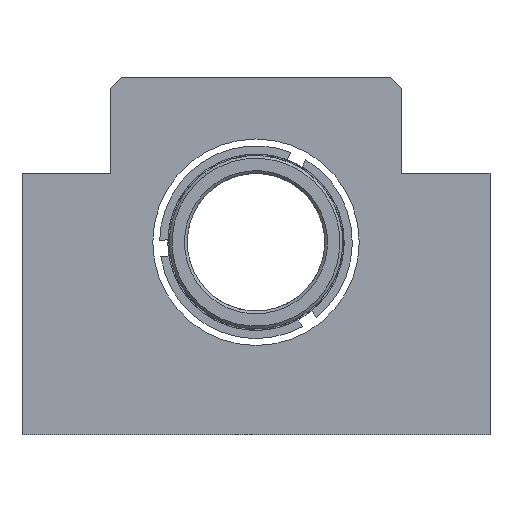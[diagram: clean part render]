
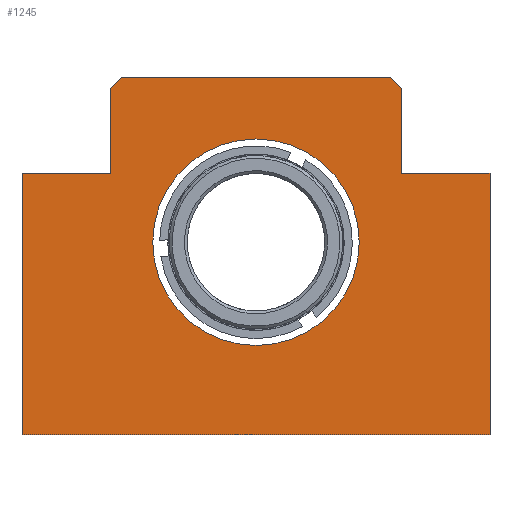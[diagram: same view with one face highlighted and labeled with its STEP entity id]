
A CAD part, left-side view. The second image highlights one B-rep face of the part: STEP entity #1245.
In plain terms, the highlighted planar face has unit normal (-1, 0, 0).
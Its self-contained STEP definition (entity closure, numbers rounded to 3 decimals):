
#3 = EDGE_CURVE ( 'NONE', #3592, #191, #2914, .T. ) ;
#60 = DIRECTION ( 'NONE',  ( 0., 0., -1. ) ) ;
#105 = VERTEX_POINT ( 'NONE', #154 ) ;
#113 = CARTESIAN_POINT ( 'NONE',  ( -35., -49., 60. ) ) ;
#154 = CARTESIAN_POINT ( 'NONE',  ( -35., 53., 56. ) ) ;
#191 = VERTEX_POINT ( 'NONE', #1951 ) ;
#230 = CARTESIAN_POINT ( 'NONE',  ( -35., -53., 25. ) ) ;
#280 = CARTESIAN_POINT ( 'NONE',  ( -35., -53., 56. ) ) ;
#289 = VECTOR ( 'NONE', #2657, 1000. ) ;
#298 = LINE ( 'NONE', #2276, #1934 ) ;
#375 = CARTESIAN_POINT ( 'NONE',  ( -35., 0., 0. ) ) ;
#474 = CARTESIAN_POINT ( 'NONE',  ( -35., -85., 25. ) ) ;
#510 = AXIS2_PLACEMENT_3D ( 'NONE', #3519, #1499, #3899 ) ;
#524 = DIRECTION ( 'NONE',  ( 0., 0., 1. ) ) ;
#731 = CIRCLE ( 'NONE', #2709, 37.5 ) ;
#733 = DIRECTION ( 'NONE',  ( 0., 1., 0. ) ) ;
#755 = VERTEX_POINT ( 'NONE', #4195 ) ;
#771 = CARTESIAN_POINT ( 'NONE',  ( -35., 53., 60. ) ) ;
#781 = VERTEX_POINT ( 'NONE', #1811 ) ;
#801 = PLANE ( 'NONE',  #510 ) ;
#817 = EDGE_CURVE ( 'NONE', #3592, #105, #4056, .T. ) ;
#818 = VECTOR ( 'NONE', #60, 1000. ) ;
#904 = CARTESIAN_POINT ( 'NONE',  ( -35., -85., -70. ) ) ;
#944 = CARTESIAN_POINT ( 'NONE',  ( -35., 85., -70. ) ) ;
#946 = VERTEX_POINT ( 'NONE', #3813 ) ;
#1025 = DIRECTION ( 'NONE',  ( 0., 0.707, -0.707 ) ) ;
#1039 = LINE ( 'NONE', #2145, #2660 ) ;
#1087 = EDGE_CURVE ( 'NONE', #3459, #946, #4101, .T. ) ;
#1123 = EDGE_LOOP ( 'NONE', ( #1386, #1533 ) ) ;
#1209 = VERTEX_POINT ( 'NONE', #3882 ) ;
#1245 = ADVANCED_FACE ( 'NONE', ( #1641, #3351 ), #801, .F. ) ;
#1252 = VECTOR ( 'NONE', #4261, 1000. ) ;
#1280 = DIRECTION ( 'NONE',  ( 1., 0., 0. ) ) ;
#1386 = ORIENTED_EDGE ( 'NONE', *, *, #2811, .T. ) ;
#1499 = DIRECTION ( 'NONE',  ( 1., 0., 0. ) ) ;
#1533 = ORIENTED_EDGE ( 'NONE', *, *, #1972, .T. ) ;
#1542 = ORIENTED_EDGE ( 'NONE', *, *, #3, .F. ) ;
#1607 = EDGE_CURVE ( 'NONE', #1813, #191, #2281, .T. ) ;
#1637 = EDGE_CURVE ( 'NONE', #2435, #2681, #2065, .T. ) ;
#1641 = FACE_OUTER_BOUND ( 'NONE', #4317, .T. ) ;
#1743 = LINE ( 'NONE', #3843, #818 ) ;
#1811 = CARTESIAN_POINT ( 'NONE',  ( -35., 0., -37.5 ) ) ;
#1813 = VERTEX_POINT ( 'NONE', #280 ) ;
#1934 = VECTOR ( 'NONE', #524, 1000. ) ;
#1951 = CARTESIAN_POINT ( 'NONE',  ( -35., -49., 60. ) ) ;
#1972 = EDGE_CURVE ( 'NONE', #755, #781, #3881, .T. ) ;
#2009 = VECTOR ( 'NONE', #3524, 1000. ) ;
#2044 = EDGE_CURVE ( 'NONE', #1813, #1209, #1743, .T. ) ;
#2056 = EDGE_CURVE ( 'NONE', #946, #105, #1039, .T. ) ;
#2058 = CARTESIAN_POINT ( 'NONE',  ( -35., 49., 60. ) ) ;
#2065 = LINE ( 'NONE', #474, #2975 ) ;
#2145 = CARTESIAN_POINT ( 'NONE',  ( -35., 53., 25. ) ) ;
#2265 = CARTESIAN_POINT ( 'NONE',  ( -35., -85., 25. ) ) ;
#2276 = CARTESIAN_POINT ( 'NONE',  ( -35., 85., -70. ) ) ;
#2277 = AXIS2_PLACEMENT_3D ( 'NONE', #375, #2800, #733 ) ;
#2281 = LINE ( 'NONE', #113, #1252 ) ;
#2334 = DIRECTION ( 'NONE',  ( 0., -1., 0. ) ) ;
#2404 = CARTESIAN_POINT ( 'NONE',  ( -35., 53., 56. ) ) ;
#2434 = EDGE_CURVE ( 'NONE', #3448, #3459, #298, .T. ) ;
#2435 = VERTEX_POINT ( 'NONE', #2265 ) ;
#2437 = EDGE_CURVE ( 'NONE', #2681, #3448, #2839, .T. ) ;
#2477 = DIRECTION ( 'NONE',  ( 0., 0., 1. ) ) ;
#2553 = DIRECTION ( 'NONE',  ( 0., 0., -1. ) ) ;
#2657 = DIRECTION ( 'NONE',  ( 0., -1., 0. ) ) ;
#2660 = VECTOR ( 'NONE', #2477, 1000. ) ;
#2681 = VERTEX_POINT ( 'NONE', #2930 ) ;
#2709 = AXIS2_PLACEMENT_3D ( 'NONE', #3329, #1280, #3676 ) ;
#2781 = ORIENTED_EDGE ( 'NONE', *, *, #2044, .F. ) ;
#2800 = DIRECTION ( 'NONE',  ( 1., 0., 0. ) ) ;
#2808 = ORIENTED_EDGE ( 'NONE', *, *, #2434, .F. ) ;
#2811 = EDGE_CURVE ( 'NONE', #781, #755, #731, .T. ) ;
#2839 = LINE ( 'NONE', #904, #3644 ) ;
#2914 = LINE ( 'NONE', #771, #2009 ) ;
#2930 = CARTESIAN_POINT ( 'NONE',  ( -35., -85., -70. ) ) ;
#2975 = VECTOR ( 'NONE', #2553, 1000. ) ;
#2992 = ORIENTED_EDGE ( 'NONE', *, *, #1637, .F. ) ;
#3050 = LINE ( 'NONE', #230, #289 ) ;
#3106 = ORIENTED_EDGE ( 'NONE', *, *, #817, .T. ) ;
#3136 = VECTOR ( 'NONE', #1025, 1000. ) ;
#3329 = CARTESIAN_POINT ( 'NONE',  ( -35., 0., 0. ) ) ;
#3341 = CARTESIAN_POINT ( 'NONE',  ( -35., 85., 25. ) ) ;
#3351 = FACE_BOUND ( 'NONE', #1123, .T. ) ;
#3425 = EDGE_CURVE ( 'NONE', #1209, #2435, #3050, .T. ) ;
#3448 = VERTEX_POINT ( 'NONE', #944 ) ;
#3459 = VERTEX_POINT ( 'NONE', #3341 ) ;
#3519 = CARTESIAN_POINT ( 'NONE',  ( -35., 0., 0. ) ) ;
#3524 = DIRECTION ( 'NONE',  ( 0., -1., 0. ) ) ;
#3592 = VERTEX_POINT ( 'NONE', #2058 ) ;
#3617 = ORIENTED_EDGE ( 'NONE', *, *, #3425, .F. ) ;
#3644 = VECTOR ( 'NONE', #3646, 1000. ) ;
#3645 = ORIENTED_EDGE ( 'NONE', *, *, #2056, .F. ) ;
#3646 = DIRECTION ( 'NONE',  ( 0., 1., 0. ) ) ;
#3676 = DIRECTION ( 'NONE',  ( 0., 1., 0. ) ) ;
#3791 = ORIENTED_EDGE ( 'NONE', *, *, #2437, .F. ) ;
#3813 = CARTESIAN_POINT ( 'NONE',  ( -35., 53., 25. ) ) ;
#3843 = CARTESIAN_POINT ( 'NONE',  ( -35., -53., 60. ) ) ;
#3881 = CIRCLE ( 'NONE', #2277, 37.5 ) ;
#3882 = CARTESIAN_POINT ( 'NONE',  ( -35., -53., 25. ) ) ;
#3899 = DIRECTION ( 'NONE',  ( 0., 0., -1. ) ) ;
#3992 = VECTOR ( 'NONE', #2334, 1000. ) ;
#4056 = LINE ( 'NONE', #2404, #3136 ) ;
#4101 = LINE ( 'NONE', #4376, #3992 ) ;
#4113 = ORIENTED_EDGE ( 'NONE', *, *, #1087, .F. ) ;
#4120 = ORIENTED_EDGE ( 'NONE', *, *, #1607, .T. ) ;
#4195 = CARTESIAN_POINT ( 'NONE',  ( -35., 0., 37.5 ) ) ;
#4261 = DIRECTION ( 'NONE',  ( 0., 0.707, 0.707 ) ) ;
#4317 = EDGE_LOOP ( 'NONE', ( #2781, #4120, #1542, #3106, #3645, #4113, #2808, #3791, #2992, #3617 ) ) ;
#4376 = CARTESIAN_POINT ( 'NONE',  ( -35., 85., 25. ) ) ;
